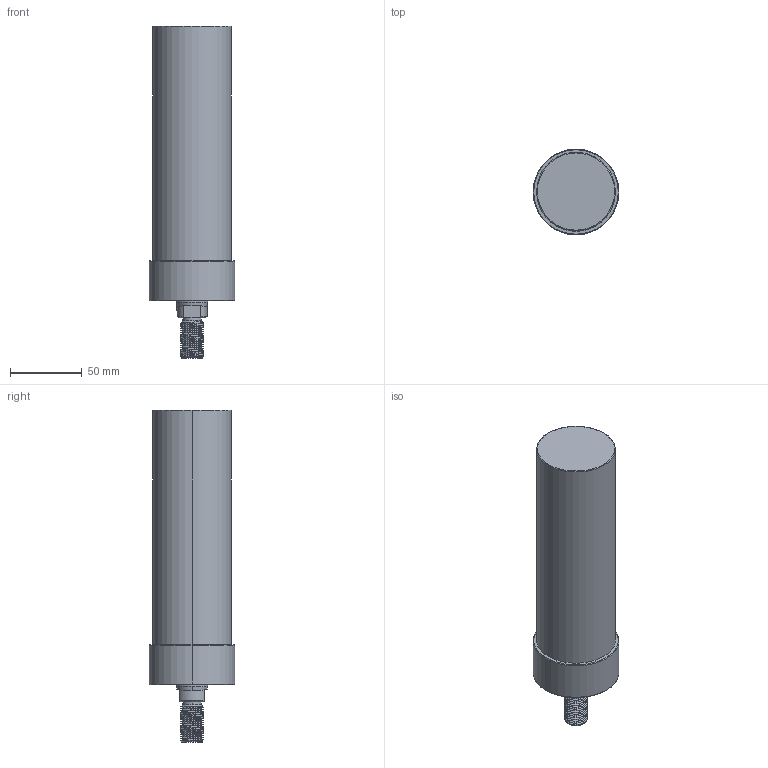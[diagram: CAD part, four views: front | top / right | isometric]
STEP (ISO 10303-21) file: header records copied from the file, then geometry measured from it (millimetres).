
FILE_DESCRIPTION (( 'STEP AP203' ), '1' );
FILE_NAME ('CLLU-055GT-135.STEP', '2020-01-16T01:59:29', ( '' ), ( '' ), 'SwSTEP 2.0', 'SolidWorks 2015', '' );
FILE_SCHEMA (( 'CONFIG_CONTROL_DESIGN' ));
Length unit declared in the file: millimetre
Products named in the file (1): CLLU-055GT-135
Bounding box: 60 x 60 x 232 mm (x, y, z)
Volume: 476084.3 mm3; surface area: 43312.7 mm2
Topology: 1 solids, 1 shells, 102 faces, 254 edges, 155 vertices
Faces by surface type: cylinder 56, cone 26, plane 12, torus 6, bspline 2
Entity records: 4898 total; most frequent: CARTESIAN_POINT 2607, ORIENTED_EDGE 492, DIRECTION 445, EDGE_CURVE 246, AXIS2_PLACEMENT_3D 178, VERTEX_POINT 155, EDGE_LOOP 111, ADVANCED_FACE 102
